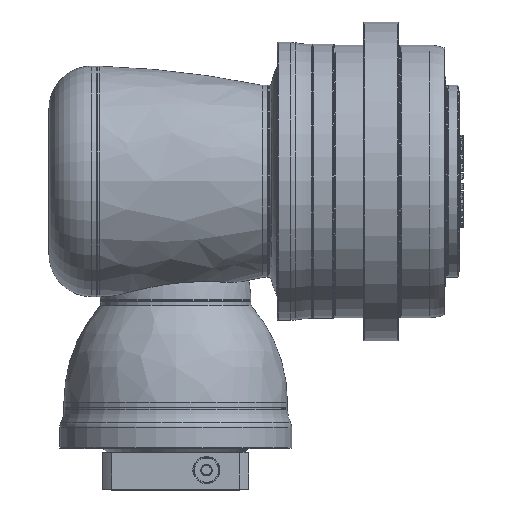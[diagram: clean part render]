
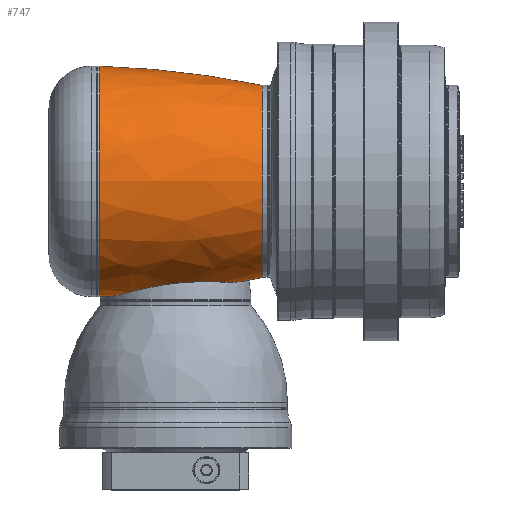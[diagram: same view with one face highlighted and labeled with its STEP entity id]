
A CAD part, top view. The second image highlights one B-rep face of the part: STEP entity #747.
In plain terms, the highlighted free-form (B-spline) face has degree [3, 3] with [7, 4] control points.
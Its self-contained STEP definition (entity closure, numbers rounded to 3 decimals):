
#162=CARTESIAN_POINT('',(-138.857,1099.364,
0.));
#163=DIRECTION('',(0.,0.,-1.));
#164=DIRECTION('',(0.201,-0.979,0.));
#165=AXIS2_PLACEMENT_3D('',#162,#163,#164);
#172=CARTESIAN_POINT('',(-138.857,-1099.364,
0.));
#173=DIRECTION('',(0.,0.,1.));
#174=DIRECTION('',(0.201,0.979,0.));
#175=AXIS2_PLACEMENT_3D('',#172,#173,#174);
#177=CARTESIAN_POINT('',(-138.857,1099.364,
0.));
#178=DIRECTION('',(0.,0.,-1.));
#179=DIRECTION('',(0.041,-0.999,0.));
#180=AXIS2_PLACEMENT_3D('',#177,#178,#179);
#182=CARTESIAN_POINT('',(113.,0.,0.));
#183=DIRECTION('',(1.,0.,0.));
#184=DIRECTION('',(0.,1.,0.));
#185=AXIS2_PLACEMENT_3D('',#182,#183,#184);
#187=CARTESIAN_POINT('',(-87.976,-149.6,
0.));
#188=CARTESIAN_POINT('',(-86.241,-149.529,3.544));
#189=CARTESIAN_POINT('',(-82.293,-149.11,10.51));
#190=CARTESIAN_POINT('',(-74.783,-147.69,20.488));
#191=CARTESIAN_POINT('',(-66.077,-145.687,29.314));
#192=CARTESIAN_POINT('',(-56.29,-143.305,36.904));
#193=CARTESIAN_POINT('',(-45.531,-140.737,43.157));
#194=CARTESIAN_POINT('',(-33.777,-138.149,48.014));
#195=CARTESIAN_POINT('',(-21.468,-135.788,51.264));
#196=CARTESIAN_POINT('',(-8.904,-133.825,52.852));
#197=CARTESIAN_POINT('',(2.443,-132.473,52.882));
#198=CARTESIAN_POINT('',(12.87,-131.559,51.857));
#199=CARTESIAN_POINT('',(24.353,-130.931,49.458));
#200=CARTESIAN_POINT('',(35.359,-130.692,45.756));
#201=CARTESIAN_POINT('',(45.703,-130.733,40.898));
#202=CARTESIAN_POINT('',(55.063,-130.931,35.118));
#203=CARTESIAN_POINT('',(63.742,-131.164,28.303));
#204=CARTESIAN_POINT('',(71.964,-131.31,20.099));
#205=CARTESIAN_POINT('',(79.444,-131.155,10.316));
#206=CARTESIAN_POINT('',(83.302,-130.737,3.495));
#207=CARTESIAN_POINT('',(84.987,-130.43,0.));
#249=CARTESIAN_POINT('',(-99.,0.,0.));
#250=DIRECTION('',(1.,0.,0.));
#251=DIRECTION('',(0.,1.,0.));
#252=AXIS2_PLACEMENT_3D('',#249,#250,#251);
#519=CARTESIAN_POINT('',(113.,125.,0.));
#520=CARTESIAN_POINT('',(-99.,150.,0.));
#521=VERTEX_POINT('',#519);
#522=VERTEX_POINT('',#520);
#523=CARTESIAN_POINT('',(113.,-125.,0.));
#524=VERTEX_POINT('',#523);
#525=CARTESIAN_POINT('',(84.987,-130.43,
0.));
#526=VERTEX_POINT('',#525);
#527=CARTESIAN_POINT('',(-87.976,-149.6,
0.));
#528=CARTESIAN_POINT('',(-99.,-150.,0.));
#529=VERTEX_POINT('',#527);
#530=VERTEX_POINT('',#528);
#707=CARTESIAN_POINT('',(-103.273,149.833,-9.427));
#708=CARTESIAN_POINT('',(-29.112,147.725,-9.294));
#709=CARTESIAN_POINT('',(44.568,139.053,-8.748));
#710=CARTESIAN_POINT('',(117.185,123.887,-7.794));
#711=CARTESIAN_POINT('',(-103.273,155.634,82.78));
#712=CARTESIAN_POINT('',(-29.112,153.444,81.616));
#713=CARTESIAN_POINT('',(44.568,144.437,76.825));
#714=CARTESIAN_POINT('',(117.185,128.683,68.445));
#715=CARTESIAN_POINT('',(-103.273,92.389,150.129));
#716=CARTESIAN_POINT('',(-29.112,91.089,148.017));
#717=CARTESIAN_POINT('',(44.568,85.742,139.328));
#718=CARTESIAN_POINT('',(117.185,76.39,124.132));
#719=CARTESIAN_POINT('',(-103.273,0.,150.129));
#720=CARTESIAN_POINT('',(-29.112,0.,
148.017));
#721=CARTESIAN_POINT('',(44.568,0.,
139.328));
#722=CARTESIAN_POINT('',(117.185,0.,124.132));
#723=CARTESIAN_POINT('',(-103.273,-92.389,150.129));
#724=CARTESIAN_POINT('',(-29.112,-91.089,148.017));
#725=CARTESIAN_POINT('',(44.568,-85.742,139.328));
#726=CARTESIAN_POINT('',(117.185,-76.39,124.132));
#727=CARTESIAN_POINT('',(-103.273,-155.634,82.78));
#728=CARTESIAN_POINT('',(-29.112,-153.444,81.616));
#729=CARTESIAN_POINT('',(44.568,-144.437,76.825));
#730=CARTESIAN_POINT('',(117.185,-128.683,68.445));
#731=CARTESIAN_POINT('',(-103.273,-149.833,
-9.427));
#732=CARTESIAN_POINT('',(-29.112,-147.725,
-9.294));
#733=CARTESIAN_POINT('',(44.568,-139.053,-8.748));
#734=CARTESIAN_POINT('',(117.185,-123.887,-7.794));
#735=(BOUNDED_SURFACE()B_SPLINE_SURFACE(3,3,((#707,#708,#709,#710),(#711,#712,
#713,#714),(#715,#716,#717,#718),(#719,#720,#721,#722),(#723,#724,#725,#726),(
#727,#728,#729,#730),(#731,#732,#733,#734)),.UNSPECIFIED.,.F.,.F.,.F.)B_SPLINE_SURFACE_WITH_KNOTS((4,3,4),(4,4),(0.,1.,2.),(0.,1.),.UNSPECIFIED.)GEOMETRIC_REPRESENTATION_ITEM()RATIONAL_B_SPLINE_SURFACE(((1.19,
1.186,1.186,1.19),(0.939,
0.937,0.937,0.939),(0.939,
0.937,0.937,0.939),(1.19,
1.186,1.186,1.19),(0.939,
0.937,0.937,0.939),(0.939,
0.937,0.937,0.939),(1.19,
1.186,1.186,1.19)))REPRESENTATION_ITEM('')SURFACE());
#736=ORIENTED_EDGE('',*,*,#689,.T.);
#738=ORIENTED_EDGE('',*,*,#737,.F.);
#739=ORIENTED_EDGE('',*,*,#697,.T.);
#741=ORIENTED_EDGE('',*,*,#740,.F.);
#742=ORIENTED_EDGE('',*,*,#693,.F.);
#744=ORIENTED_EDGE('',*,*,#743,.T.);
#745=EDGE_LOOP('',(#736,#738,#739,#741,#742,#744));
#746=FACE_OUTER_BOUND('',#745,.F.);
#747=ADVANCED_FACE('',(#746),#735,.T.);
#166=CIRCLE('',#165,1250.);
#176=CIRCLE('',#175,1250.);
#181=CIRCLE('',#180,1250.);
#186=CIRCLE('',#185,125.);
#208=B_SPLINE_CURVE_WITH_KNOTS('',3,(#187,#188,#189,#190,#191,#192,#193,#194,
#195,#196,#197,#198,#199,#200,#201,#202,#203,#204,#205,#206,#207),.UNSPECIFIED.,
.F.,.F.,(4,1,1,1,1,1,1,1,1,1,1,1,1,1,1,1,1,1,4),(0.,0.056,
0.111,0.167,0.222,0.278,
0.333,0.389,0.444,0.5,0.556,
0.611,0.667,0.722,0.778,
0.833,0.889,0.944,1.),.UNSPECIFIED.);
#253=CIRCLE('',#252,150.);
#689=EDGE_CURVE('',#524,#526,#166,.T.);
#693=EDGE_CURVE('',#521,#522,#176,.T.);
#697=EDGE_CURVE('',#529,#530,#181,.T.);
#737=EDGE_CURVE('',#529,#526,#208,.T.);
#740=EDGE_CURVE('',#522,#530,#253,.T.);
#743=EDGE_CURVE('',#521,#524,#186,.T.);
